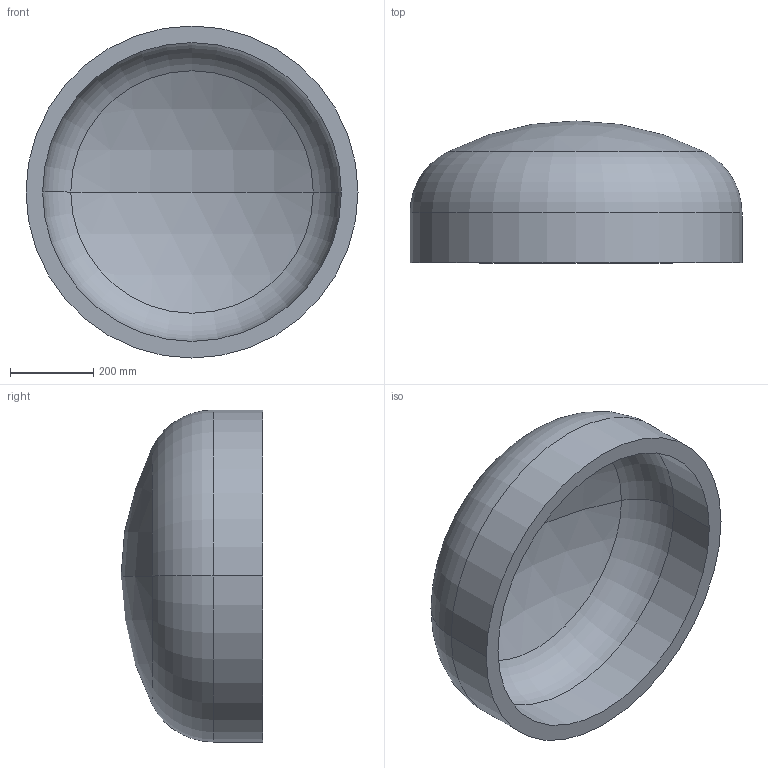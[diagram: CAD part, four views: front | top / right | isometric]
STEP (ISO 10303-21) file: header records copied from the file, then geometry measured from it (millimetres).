
FILE_DESCRIPTION (( 'STEP AP203' ), '1' );
FILE_NAME ('DIN 28013 Korbbogenform_-_Boden DIN 28013 - 800 x 120 - I - s=40.step', '2016-07-01T08:16:42', ( '' ), ( '' ), 'SwSTEP 2.0', 'SolidWorks 2013', '' );
FILE_SCHEMA (( 'CONFIG_CONTROL_DESIGN' ));
Length unit declared in the file: millimetre
Products named in the file (1): DIN 28013 Korbbogenform_-_Boden DIN 28013 - 800 x 120 - I - s=40
Bounding box: 800 x 341.74 x 800 mm (x, y, z)
Volume: 37652510.8 mm3; surface area: 1981480.6 mm2
Topology: 1 solids, 1 shells, 13 faces, 24 edges, 14 vertices
Faces by surface type: torus 4, cylinder 4, sphere 4, plane 1
Entity records: 407 total; most frequent: DIRECTION 72, CARTESIAN_POINT 52, ORIENTED_EDGE 48, AXIS2_PLACEMENT_3D 34, EDGE_CURVE 24, CIRCLE 20, EDGE_LOOP 14, VERTEX_POINT 14
